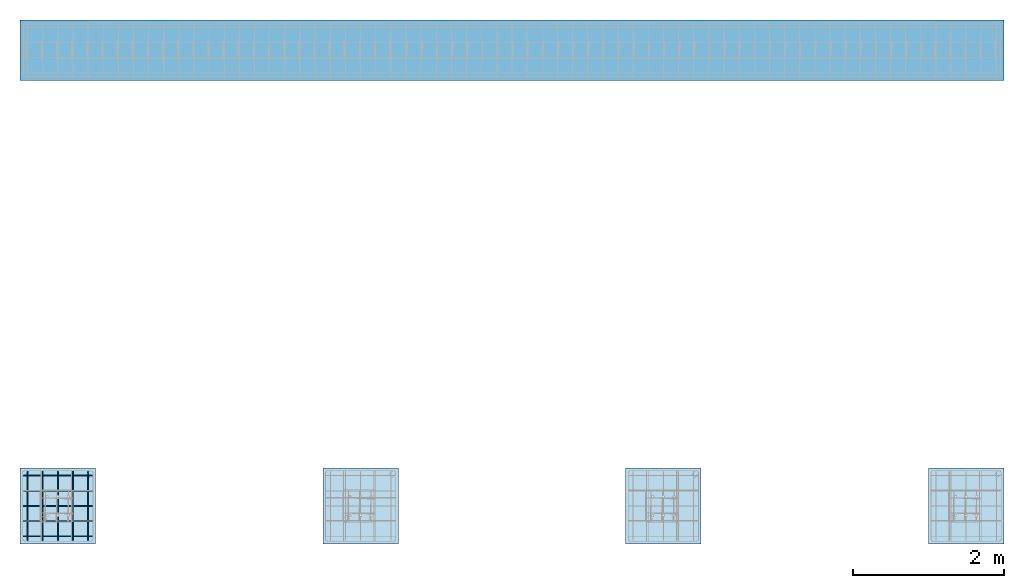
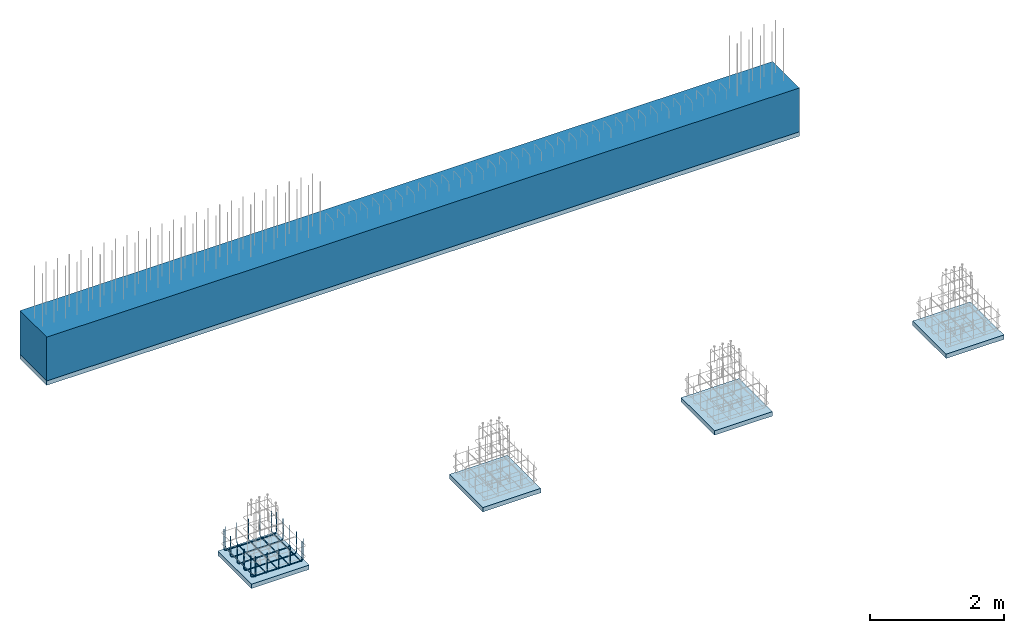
# One storey, part 1 of 12: 5 slabs, 2 reinforcing bars, 1 footing.
"""IFC4X3_ADD2 building model written with IfcOpenShell, lengths in millimetres."""

from ifc_helpers import new_model, entity, si_unit, converted_unit, derived_unit, direction, frame, frame_2d, origin, place, context, subcontext, project, spatial, rectangle, extrude, material, layer, layer_set, layer_usage, type_object, element, save


model = new_model("IFC4X3_ADD2")

# Units and contexts
model_context = context("Model", 3, precision=0.01, world=origin(), true_north=direction((6.123233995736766e-17, 1.0)))
plan_context = context("Plan", 3, precision=0.01, world=origin(), true_north=direction((6.123233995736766e-17, 1.0)))
body_context = subcontext(model_context, "Body", "Model", "MODEL_VIEW")
ifc_project = project(units=[si_unit("LENGTHUNIT", "METRE", prefix="MILLI"), converted_unit("PLANEANGLEUNIT", "DEGREE", entity("IfcPlaneAngleMeasure", 0.017453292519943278), si_unit("PLANEANGLEUNIT", "RADIAN"), dimensions=[0, 0, 0, 0, 0, 0, 0]), si_unit("AREAUNIT", "SQUARE_METRE"), si_unit("VOLUMEUNIT", "CUBIC_METRE"), derived_unit("THERMALTRANSMITTANCEUNIT", [(si_unit("MASSUNIT", "GRAM", prefix="KILO"), 1), (si_unit("THERMODYNAMICTEMPERATUREUNIT", "KELVIN"), -1), (si_unit("TIMEUNIT", "SECOND"), -3)]), derived_unit("USERDEFINED", [(si_unit("MASSUNIT", "GRAM", prefix="KILO"), 1), (si_unit("THERMODYNAMICTEMPERATUREUNIT", "KELVIN"), -1), (si_unit("TIMEUNIT", "SECOND"), -2)]), derived_unit("THERMALRESISTANCEUNIT", [(si_unit("MASSUNIT", "GRAM", prefix="KILO"), -1), (si_unit("TIMEUNIT", "SECOND"), 3), (si_unit("THERMODYNAMICTEMPERATUREUNIT", "KELVIN"), 1)]), si_unit("MASSUNIT", "GRAM", prefix="KILO"), derived_unit("MOMENTOFINERTIAUNIT", [(si_unit("LENGTHUNIT", "METRE"), 4)]), derived_unit("LINEARFORCEUNIT", [(si_unit("MASSUNIT", "GRAM", prefix="KILO"), 1), (si_unit("TIMEUNIT", "SECOND"), -2)]), derived_unit("WARPINGCONSTANTUNIT", [(si_unit("LENGTHUNIT", "METRE"), 6)]), si_unit("PRESSUREUNIT", "PASCAL"), derived_unit("MASSDENSITYUNIT", [(si_unit("MASSUNIT", "GRAM", prefix="KILO"), 1), (si_unit("LENGTHUNIT", "METRE"), -3)]), derived_unit("MODULUSOFELASTICITYUNIT", [(si_unit("MASSUNIT", "GRAM", prefix="KILO"), 1), (si_unit("TIMEUNIT", "SECOND"), -2), (si_unit("LENGTHUNIT", "METRE"), -1)]), derived_unit("THERMALEXPANSIONCOEFFICIENTUNIT", [(si_unit("THERMODYNAMICTEMPERATUREUNIT", "KELVIN"), -1)]), derived_unit("VAPORPERMEABILITYUNIT", [(si_unit("LENGTHUNIT", "METRE"), -1), (si_unit("TIMEUNIT", "SECOND"), 1)]), derived_unit("USERDEFINED", [(si_unit("MASSUNIT", "GRAM", prefix="KILO"), 1), (si_unit("TIMEUNIT", "SECOND"), -3), (si_unit("LENGTHUNIT", "METRE"), 3), (si_unit("ELECTRICCURRENTUNIT", "AMPERE"), -2)]), derived_unit("SPECIFICHEATCAPACITYUNIT", [(si_unit("THERMODYNAMICTEMPERATUREUNIT", "KELVIN"), -1), (si_unit("TIMEUNIT", "SECOND"), -2), (si_unit("LENGTHUNIT", "METRE"), 2)]), derived_unit("THERMALCONDUCTANCEUNIT", [(si_unit("MASSUNIT", "GRAM", prefix="KILO"), 1), (si_unit("THERMODYNAMICTEMPERATUREUNIT", "KELVIN"), -1), (si_unit("TIMEUNIT", "SECOND"), -3), (si_unit("LENGTHUNIT", "METRE"), 1)])], contexts=[model_context, plan_context])

# Site, building, storey
site_placement = place(None, origin())
site = spatial("IfcSite", under=ifc_project, at=site_placement, Name="Default", CompositionType="ELEMENT")
building_placement = place(site_placement, origin())
building = spatial("IfcBuilding", under=site, at=building_placement, Name="Complex structure", CompositionType="ELEMENT")
storey_placement = place(building_placement, frame((0.0, 0.0, -1200.0)))
storey = spatial("IfcBuildingStorey", under=building, at=storey_placement, Name="Level -03", CompositionType="ELEMENT", Elevation=-1200.0)

# Footing
ifc_material_1 = material(Name="Concrete, Cast In Situ", Category="Concrete")
footing_type = type_object("IfcFootingType", Name="Wall Foundation:Bearing Footing 800 x 800mm", PredefinedType="STRIP_FOOTING")
footing_placement = place(storey_placement, frame((-13645.22155030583, 4337.133296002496, 0.0)))
element("IfcFooting", 1, at=footing_placement, inside=storey, type_object=footing_type, material=ifc_material_1, Name="Wall Foundation:Bearing Footing 800 x 800mm", ObjectType="Wall Foundation:Bearing Footing 800 x 800mm", PredefinedType="STRIP_FOOTING", context=body_context, shape_type="SweptSolid", body=[
    extrude(rectangle(XDim=13000.0, YDim=799.9999999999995, at=frame_2d((9.094947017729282e-13, 2.5579538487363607e-13), x_axis=(1.0, 0.0))), frame((6500.0, 400.0, 0.0)), (0.0, 0.0, 1.0), 800.0),
])

# Slabs
ifc_material_2 = material(Name="Concrete - Cast-in-Place Concrete", Category="Concrete")
ifc_layer = layer(ifc_material_2, 80.0, Name="Concrete - Cast-in-Place Concrete", Category="Concrete")
ifc_layer_set = layer_set([ifc_layer], Name="Floor:Blinding Concrete 80mm")
ifc_layer_usage = layer_usage(ifc_layer_set, "AXIS3", "POSITIVE", 0.0)
slab_type = type_object("IfcSlabType", Name="Floor:Blinding Concrete 80mm", PredefinedType="FLOOR", material=ifc_layer_set)
slab_1_placement = place(storey_placement, frame((-13645.221550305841, -1782.8667039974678, -80.0)))
element("IfcSlab", 2, at=slab_1_placement, inside=storey, type_object=slab_type, material=ifc_layer_usage, Name="Floor:Blinding Concrete 80mm", ObjectType="Floor:Blinding Concrete 80mm", PredefinedType="FLOOR", context=body_context, shape_type="SweptSolid", body=[
    extrude(rectangle(XDim=800.0000000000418, YDim=13000.000000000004, at=frame_2d((0.0, 3060.0), x_axis=(0.0, -1.0))), frame((6500.0, 3460.0, 80.0), z_axis=(0.0, 0.0, -1.0), x_axis=(-1.0, 0.0, 0.0)), (0.0, 0.0, 1.0), 79.99999999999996),
])
slab_2_placement = place(storey_placement, frame((-13645.221550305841, -1782.8667039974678, -80.0)))
element("IfcSlab", 3, at=slab_2_placement, inside=storey, type_object=slab_type, material=ifc_layer_usage, Name="Floor:Blinding Concrete 80mm:2", ObjectType="Floor:Blinding Concrete 80mm", PredefinedType="FLOOR", context=body_context, shape_type="SweptSolid", body=[
    extrude(rectangle(XDim=1000.0, YDim=1000.0, at=frame_2d((-6000.0, -2960.0), x_axis=(0.0, -1.0))), frame((6500.0, 3460.0, 80.0), z_axis=(0.0, 0.0, -1.0), x_axis=(-1.0, 0.0, 0.0)), (0.0, 0.0, 1.0), 79.99999999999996),
])
slab_3_placement = place(storey_placement, frame((-13645.221550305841, -1782.8667039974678, -80.0)))
element("IfcSlab", 4, at=slab_3_placement, inside=storey, type_object=slab_type, material=ifc_layer_usage, Name="Floor:Blinding Concrete 80mm:3", ObjectType="Floor:Blinding Concrete 80mm", PredefinedType="FLOOR", context=body_context, shape_type="SweptSolid", body=[
    extrude(rectangle(XDim=1000.0, YDim=1000.0, at=frame_2d((-2000.0, -2960.0), x_axis=(0.0, -1.0))), frame((6500.0, 3460.0, 80.0), z_axis=(0.0, 0.0, -1.0), x_axis=(-1.0, 0.0, 0.0)), (0.0, 0.0, 1.0), 79.99999999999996),
])
slab_4_placement = place(storey_placement, frame((-13645.221550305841, -1782.8667039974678, -80.0)))
element("IfcSlab", 5, at=slab_4_placement, inside=storey, type_object=slab_type, material=ifc_layer_usage, Name="Floor:Blinding Concrete 80mm:4", ObjectType="Floor:Blinding Concrete 80mm", PredefinedType="FLOOR", context=body_context, shape_type="SweptSolid", body=[
    extrude(rectangle(XDim=1000.0, YDim=999.9999999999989, at=frame_2d((2000.0, -2960.0), x_axis=(0.0, -1.0))), frame((6500.0, 3460.0, 80.0), z_axis=(0.0, 0.0, -1.0), x_axis=(-1.0, 0.0, 0.0)), (0.0, 0.0, 1.0), 79.99999999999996),
])
slab_5_placement = place(storey_placement, frame((-13645.221550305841, -1782.8667039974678, -80.0)))
element("IfcSlab", 6, at=slab_5_placement, inside=storey, type_object=slab_type, material=ifc_layer_usage, Name="Floor:Blinding Concrete 80mm:5", ObjectType="Floor:Blinding Concrete 80mm", PredefinedType="FLOOR", context=body_context, shape_type="SweptSolid", body=[
    extrude(rectangle(XDim=1000.0, YDim=1000.0, at=frame_2d((6000.0, -2960.0), x_axis=(0.0, -1.0))), frame((6500.0, 3460.0, 80.0), z_axis=(0.0, 0.0, -1.0), x_axis=(-1.0, 0.0, 0.0)), (0.0, 0.0, 1.0), 79.99999999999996),
])

# Reinforcing bars
ifc_material_3 = material(Name="Steel Rebar - B500A, B or C", Category="Unassigned")
reinforcing_bar_type = type_object("IfcReinforcingBarType", Name="Rebar Bar:12mm", PredefinedType="NOTDEFINED")
reinforcing_bar_1_placement = place(storey_placement, origin())
ifc_direction_1 = entity("IfcDirection", [-1.0, 0.0, 0.0])
ifc_direction_2 = entity("IfcDirection", [-1.0, 0.0, 0.0])
ifc_direction_3 = entity("IfcDirection", [-1.0, 0.0, 0.0])
ifc_direction_4 = entity("IfcDirection", [-1.0, 0.0, 0.0])
ifc_direction_5 = entity("IfcDirection", [-1.0, 0.0, 0.0])
element("IfcReinforcingBar", 7, at=reinforcing_bar_1_placement, inside=storey, type_object=reinforcing_bar_type, material=ifc_material_3, Name="Rebar Bar:12mm : Shape 21", ObjectType="Rebar Bar:12mm", context=body_context, shape_type="AdvancedSweptSolid", body=[
    entity("IfcSweptDiskSolid", entity("IfcCompositeCurve", [entity("IfcCompositeCurveSegment", "CONTINUOUS", True, entity("IfcPolyline", [entity("IfcCartesianPoint", [-12745.221550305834, -828.8667039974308, 440.0]), entity("IfcCartesianPoint", [-12745.221550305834, -828.8667039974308, 104.0])])), entity("IfcCompositeCurveSegment", "CONTINUOUS", True, entity("IfcTrimmedCurve", entity("IfcCircle", entity("IfcAxis2Placement3D", entity("IfcCartesianPoint", [-12745.221550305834, -874.8667039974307, 104.0]), ifc_direction_1, entity("IfcDirection", [0.0, 0.0, -1.0])), 46.0), [entity("IfcParameterValue", 269.9999999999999)], [entity("IfcParameterValue", 360.00000000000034)], True, "PARAMETER")), entity("IfcCompositeCurveSegment", "CONTINUOUS", True, entity("IfcPolyline", [entity("IfcCartesianPoint", [-12745.221550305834, -874.8667039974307, 58.0]), entity("IfcCartesianPoint", [-12745.221550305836, -1690.86670399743, 58.0])])), entity("IfcCompositeCurveSegment", "CONTINUOUS", True, entity("IfcTrimmedCurve", entity("IfcCircle", entity("IfcAxis2Placement3D", entity("IfcCartesianPoint", [-12745.221550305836, -1690.86670399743, 104.0]), ifc_direction_1, entity("IfcDirection", [0.0, -1.0, 0.0])), 46.0), [entity("IfcParameterValue", 269.9999999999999)], [entity("IfcParameterValue", 360.00000000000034)], True, "PARAMETER")), entity("IfcCompositeCurveSegment", "CONTINUOUS", True, entity("IfcPolyline", [entity("IfcCartesianPoint", [-12745.221550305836, -1736.86670399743, 104.0]), entity("IfcCartesianPoint", [-12745.221550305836, -1736.86670399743, 440.0])]))], False), 6.0, None, 0.0, 183.00000000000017),
    entity("IfcSweptDiskSolid", entity("IfcCompositeCurve", [entity("IfcCompositeCurveSegment", "CONTINUOUS", True, entity("IfcPolyline", [entity("IfcCartesianPoint", [-12945.221550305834, -828.8667039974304, 440.0]), entity("IfcCartesianPoint", [-12945.221550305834, -828.8667039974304, 104.0])])), entity("IfcCompositeCurveSegment", "CONTINUOUS", True, entity("IfcTrimmedCurve", entity("IfcCircle", entity("IfcAxis2Placement3D", entity("IfcCartesianPoint", [-12945.221550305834, -874.8667039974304, 104.0]), ifc_direction_2, entity("IfcDirection", [0.0, 0.0, -1.0])), 46.0), [entity("IfcParameterValue", 269.9999999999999)], [entity("IfcParameterValue", 360.00000000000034)], True, "PARAMETER")), entity("IfcCompositeCurveSegment", "CONTINUOUS", True, entity("IfcPolyline", [entity("IfcCartesianPoint", [-12945.221550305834, -874.8667039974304, 58.0]), entity("IfcCartesianPoint", [-12945.221550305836, -1690.8667039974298, 58.0])])), entity("IfcCompositeCurveSegment", "CONTINUOUS", True, entity("IfcTrimmedCurve", entity("IfcCircle", entity("IfcAxis2Placement3D", entity("IfcCartesianPoint", [-12945.221550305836, -1690.8667039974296, 104.0]), ifc_direction_2, entity("IfcDirection", [0.0, -1.0, 0.0])), 46.0), [entity("IfcParameterValue", 269.9999999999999)], [entity("IfcParameterValue", 360.00000000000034)], True, "PARAMETER")), entity("IfcCompositeCurveSegment", "CONTINUOUS", True, entity("IfcPolyline", [entity("IfcCartesianPoint", [-12945.221550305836, -1736.8667039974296, 104.0]), entity("IfcCartesianPoint", [-12945.221550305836, -1736.8667039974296, 440.0])]))], False), 6.0, None, 0.0, 183.00000000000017),
    entity("IfcSweptDiskSolid", entity("IfcCompositeCurve", [entity("IfcCompositeCurveSegment", "CONTINUOUS", True, entity("IfcPolyline", [entity("IfcCartesianPoint", [-13145.221550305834, -828.8667039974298, 440.0]), entity("IfcCartesianPoint", [-13145.221550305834, -828.8667039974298, 104.0])])), entity("IfcCompositeCurveSegment", "CONTINUOUS", True, entity("IfcTrimmedCurve", entity("IfcCircle", entity("IfcAxis2Placement3D", entity("IfcCartesianPoint", [-13145.221550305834, -874.8667039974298, 104.0]), ifc_direction_3, entity("IfcDirection", [0.0, 0.0, -1.0])), 46.0), [entity("IfcParameterValue", 269.9999999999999)], [entity("IfcParameterValue", 360.00000000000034)], True, "PARAMETER")), entity("IfcCompositeCurveSegment", "CONTINUOUS", True, entity("IfcPolyline", [entity("IfcCartesianPoint", [-13145.221550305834, -874.8667039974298, 58.0]), entity("IfcCartesianPoint", [-13145.221550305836, -1690.866703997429, 58.0])])), entity("IfcCompositeCurveSegment", "CONTINUOUS", True, entity("IfcTrimmedCurve", entity("IfcCircle", entity("IfcAxis2Placement3D", entity("IfcCartesianPoint", [-13145.221550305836, -1690.866703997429, 104.0]), ifc_direction_3, entity("IfcDirection", [0.0, -1.0, 0.0])), 46.0), [entity("IfcParameterValue", 269.9999999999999)], [entity("IfcParameterValue", 360.00000000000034)], True, "PARAMETER")), entity("IfcCompositeCurveSegment", "CONTINUOUS", True, entity("IfcPolyline", [entity("IfcCartesianPoint", [-13145.221550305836, -1736.8667039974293, 104.0]), entity("IfcCartesianPoint", [-13145.221550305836, -1736.8667039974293, 440.0])]))], False), 6.0, None, 0.0, 183.00000000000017),
    entity("IfcSweptDiskSolid", entity("IfcCompositeCurve", [entity("IfcCompositeCurveSegment", "CONTINUOUS", True, entity("IfcPolyline", [entity("IfcCartesianPoint", [-13345.221550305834, -828.8667039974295, 440.0]), entity("IfcCartesianPoint", [-13345.221550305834, -828.8667039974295, 104.0])])), entity("IfcCompositeCurveSegment", "CONTINUOUS", True, entity("IfcTrimmedCurve", entity("IfcCircle", entity("IfcAxis2Placement3D", entity("IfcCartesianPoint", [-13345.221550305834, -874.8667039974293, 104.0]), ifc_direction_4, entity("IfcDirection", [0.0, 0.0, -1.0])), 46.0), [entity("IfcParameterValue", 269.9999999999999)], [entity("IfcParameterValue", 360.00000000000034)], True, "PARAMETER")), entity("IfcCompositeCurveSegment", "CONTINUOUS", True, entity("IfcPolyline", [entity("IfcCartesianPoint", [-13345.221550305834, -874.8667039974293, 58.0]), entity("IfcCartesianPoint", [-13345.221550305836, -1690.8667039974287, 58.0])])), entity("IfcCompositeCurveSegment", "CONTINUOUS", True, entity("IfcTrimmedCurve", entity("IfcCircle", entity("IfcAxis2Placement3D", entity("IfcCartesianPoint", [-13345.221550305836, -1690.8667039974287, 104.0]), ifc_direction_4, entity("IfcDirection", [0.0, -1.0, 0.0])), 46.0), [entity("IfcParameterValue", 269.9999999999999)], [entity("IfcParameterValue", 360.00000000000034)], True, "PARAMETER")), entity("IfcCompositeCurveSegment", "CONTINUOUS", True, entity("IfcPolyline", [entity("IfcCartesianPoint", [-13345.221550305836, -1736.8667039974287, 104.0]), entity("IfcCartesianPoint", [-13345.221550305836, -1736.8667039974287, 440.0])]))], False), 6.0, None, 0.0, 183.00000000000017),
    entity("IfcSweptDiskSolid", entity("IfcCompositeCurve", [entity("IfcCompositeCurveSegment", "CONTINUOUS", True, entity("IfcPolyline", [entity("IfcCartesianPoint", [-13545.221550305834, -828.8667039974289, 440.0]), entity("IfcCartesianPoint", [-13545.221550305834, -828.8667039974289, 104.0])])), entity("IfcCompositeCurveSegment", "CONTINUOUS", True, entity("IfcTrimmedCurve", entity("IfcCircle", entity("IfcAxis2Placement3D", entity("IfcCartesianPoint", [-13545.221550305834, -874.8667039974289, 104.0]), ifc_direction_5, entity("IfcDirection", [0.0, 0.0, -1.0])), 46.0), [entity("IfcParameterValue", 269.9999999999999)], [entity("IfcParameterValue", 360.00000000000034)], True, "PARAMETER")), entity("IfcCompositeCurveSegment", "CONTINUOUS", True, entity("IfcPolyline", [entity("IfcCartesianPoint", [-13545.221550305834, -874.8667039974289, 58.0]), entity("IfcCartesianPoint", [-13545.221550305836, -1690.8667039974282, 58.0])])), entity("IfcCompositeCurveSegment", "CONTINUOUS", True, entity("IfcTrimmedCurve", entity("IfcCircle", entity("IfcAxis2Placement3D", entity("IfcCartesianPoint", [-13545.221550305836, -1690.8667039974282, 104.0]), ifc_direction_5, entity("IfcDirection", [0.0, -1.0, 0.0])), 46.0), [entity("IfcParameterValue", 269.9999999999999)], [entity("IfcParameterValue", 360.00000000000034)], True, "PARAMETER")), entity("IfcCompositeCurveSegment", "CONTINUOUS", True, entity("IfcPolyline", [entity("IfcCartesianPoint", [-13545.221550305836, -1736.8667039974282, 104.0]), entity("IfcCartesianPoint", [-13545.221550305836, -1736.8667039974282, 440.0])]))], False), 6.0, None, 0.0, 183.00000000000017),
])
reinforcing_bar_2_placement = place(storey_placement, origin())
ifc_direction_6 = entity("IfcDirection", [0.0, -1.0, 0.0])
ifc_direction_7 = entity("IfcDirection", [0.0, -1.0, 0.0])
ifc_direction_8 = entity("IfcDirection", [0.0, -1.0, 0.0])
ifc_direction_9 = entity("IfcDirection", [0.0, -1.0, 0.0])
ifc_direction_10 = entity("IfcDirection", [0.0, -1.0, 0.0])
element("IfcReinforcingBar", 8, at=reinforcing_bar_2_placement, inside=storey, type_object=reinforcing_bar_type, material=ifc_material_3, Name="Rebar Bar:12mm : Shape 21", ObjectType="Rebar Bar:12mm", context=body_context, shape_type="AdvancedSweptSolid", body=[
    entity("IfcSweptDiskSolid", entity("IfcCompositeCurve", [entity("IfcCompositeCurveSegment", "CONTINUOUS", True, entity("IfcPolyline", [entity("IfcCartesianPoint", [-13598.871550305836, -882.8667039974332, 440.0]), entity("IfcCartesianPoint", [-13598.871550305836, -882.8667039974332, 92.34999999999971])])), entity("IfcCompositeCurveSegment", "CONTINUOUS", True, entity("IfcTrimmedCurve", entity("IfcCircle", entity("IfcAxis2Placement3D", entity("IfcCartesianPoint", [-13552.871550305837, -882.8667039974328, 92.34999999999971]), ifc_direction_6, entity("IfcDirection", [0.0, 0.0, -1.0])), 46.0), [entity("IfcParameterValue", 269.9999999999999)], [entity("IfcParameterValue", 360.00000000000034)], True, "PARAMETER")), entity("IfcCompositeCurveSegment", "CONTINUOUS", True, entity("IfcPolyline", [entity("IfcCartesianPoint", [-13552.871550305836, -882.8667039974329, 46.34999999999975]), entity("IfcCartesianPoint", [-12737.571550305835, -882.8667039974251, 46.34999999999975])])), entity("IfcCompositeCurveSegment", "CONTINUOUS", True, entity("IfcTrimmedCurve", entity("IfcCircle", entity("IfcAxis2Placement3D", entity("IfcCartesianPoint", [-12737.571550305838, -882.8667039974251, 92.34999999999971]), ifc_direction_6, entity("IfcDirection", [1.0, 0.0, 0.0])), 46.0), [entity("IfcParameterValue", 269.9999999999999)], [entity("IfcParameterValue", 360.00000000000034)], True, "PARAMETER")), entity("IfcCompositeCurveSegment", "CONTINUOUS", True, entity("IfcPolyline", [entity("IfcCartesianPoint", [-12691.571550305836, -882.8667039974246, 92.34999999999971]), entity("IfcCartesianPoint", [-12691.571550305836, -882.8667039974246, 440.0])]))], False), 6.0, None, 0.0, 183.00000000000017),
    entity("IfcSweptDiskSolid", entity("IfcCompositeCurve", [entity("IfcCompositeCurveSegment", "CONTINUOUS", True, entity("IfcPolyline", [entity("IfcCartesianPoint", [-13598.871550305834, -1082.8667039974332, 440.0]), entity("IfcCartesianPoint", [-13598.871550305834, -1082.8667039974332, 92.34999999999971])])), entity("IfcCompositeCurveSegment", "CONTINUOUS", True, entity("IfcTrimmedCurve", entity("IfcCircle", entity("IfcAxis2Placement3D", entity("IfcCartesianPoint", [-13552.871550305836, -1082.8667039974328, 92.34999999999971]), ifc_direction_7, entity("IfcDirection", [0.0, 0.0, -1.0])), 46.0), [entity("IfcParameterValue", 269.9999999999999)], [entity("IfcParameterValue", 360.00000000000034)], True, "PARAMETER")), entity("IfcCompositeCurveSegment", "CONTINUOUS", True, entity("IfcPolyline", [entity("IfcCartesianPoint", [-13552.871550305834, -1082.8667039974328, 46.34999999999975]), entity("IfcCartesianPoint", [-12737.571550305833, -1082.8667039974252, 46.34999999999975])])), entity("IfcCompositeCurveSegment", "CONTINUOUS", True, entity("IfcTrimmedCurve", entity("IfcCircle", entity("IfcAxis2Placement3D", entity("IfcCartesianPoint", [-12737.571550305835, -1082.8667039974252, 92.34999999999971]), ifc_direction_7, entity("IfcDirection", [1.0, 0.0, 0.0])), 46.0), [entity("IfcParameterValue", 269.9999999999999)], [entity("IfcParameterValue", 360.00000000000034)], True, "PARAMETER")), entity("IfcCompositeCurveSegment", "CONTINUOUS", True, entity("IfcPolyline", [entity("IfcCartesianPoint", [-12691.571550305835, -1082.8667039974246, 92.34999999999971]), entity("IfcCartesianPoint", [-12691.571550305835, -1082.8667039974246, 440.0])]))], False), 6.0, None, 0.0, 183.00000000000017),
    entity("IfcSweptDiskSolid", entity("IfcCompositeCurve", [entity("IfcCompositeCurveSegment", "CONTINUOUS", True, entity("IfcPolyline", [entity("IfcCartesianPoint", [-13598.871550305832, -1282.8667039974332, 440.0]), entity("IfcCartesianPoint", [-13598.871550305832, -1282.8667039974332, 92.34999999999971])])), entity("IfcCompositeCurveSegment", "CONTINUOUS", True, entity("IfcTrimmedCurve", entity("IfcCircle", entity("IfcAxis2Placement3D", entity("IfcCartesianPoint", [-13552.871550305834, -1282.8667039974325, 92.34999999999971]), ifc_direction_8, entity("IfcDirection", [0.0, 0.0, -1.0])), 46.0), [entity("IfcParameterValue", 269.9999999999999)], [entity("IfcParameterValue", 360.00000000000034)], True, "PARAMETER")), entity("IfcCompositeCurveSegment", "CONTINUOUS", True, entity("IfcPolyline", [entity("IfcCartesianPoint", [-13552.871550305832, -1282.8667039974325, 46.34999999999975]), entity("IfcCartesianPoint", [-12737.57155030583, -1282.866703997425, 46.34999999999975])])), entity("IfcCompositeCurveSegment", "CONTINUOUS", True, entity("IfcTrimmedCurve", entity("IfcCircle", entity("IfcAxis2Placement3D", entity("IfcCartesianPoint", [-12737.571550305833, -1282.866703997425, 92.34999999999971]), ifc_direction_8, entity("IfcDirection", [1.0, 0.0, 0.0])), 46.0), [entity("IfcParameterValue", 269.9999999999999)], [entity("IfcParameterValue", 360.00000000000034)], True, "PARAMETER")), entity("IfcCompositeCurveSegment", "CONTINUOUS", True, entity("IfcPolyline", [entity("IfcCartesianPoint", [-12691.571550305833, -1282.8667039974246, 92.34999999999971]), entity("IfcCartesianPoint", [-12691.571550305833, -1282.8667039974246, 440.0])]))], False), 6.0, None, 0.0, 183.00000000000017),
    entity("IfcSweptDiskSolid", entity("IfcCompositeCurve", [entity("IfcCompositeCurveSegment", "CONTINUOUS", True, entity("IfcPolyline", [entity("IfcCartesianPoint", [-13598.87155030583, -1482.8667039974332, 440.0]), entity("IfcCartesianPoint", [-13598.87155030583, -1482.8667039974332, 92.34999999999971])])), entity("IfcCompositeCurveSegment", "CONTINUOUS", True, entity("IfcTrimmedCurve", entity("IfcCircle", entity("IfcAxis2Placement3D", entity("IfcCartesianPoint", [-13552.871550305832, -1482.8667039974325, 92.34999999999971]), ifc_direction_9, entity("IfcDirection", [0.0, 0.0, -1.0])), 46.0), [entity("IfcParameterValue", 269.9999999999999)], [entity("IfcParameterValue", 360.00000000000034)], True, "PARAMETER")), entity("IfcCompositeCurveSegment", "CONTINUOUS", True, entity("IfcPolyline", [entity("IfcCartesianPoint", [-13552.87155030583, -1482.8667039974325, 46.34999999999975]), entity("IfcCartesianPoint", [-12737.571550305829, -1482.866703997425, 46.34999999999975])])), entity("IfcCompositeCurveSegment", "CONTINUOUS", True, entity("IfcTrimmedCurve", entity("IfcCircle", entity("IfcAxis2Placement3D", entity("IfcCartesianPoint", [-12737.57155030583, -1482.866703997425, 92.34999999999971]), ifc_direction_9, entity("IfcDirection", [1.0, 0.0, 0.0])), 46.0), [entity("IfcParameterValue", 269.9999999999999)], [entity("IfcParameterValue", 360.00000000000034)], True, "PARAMETER")), entity("IfcCompositeCurveSegment", "CONTINUOUS", True, entity("IfcPolyline", [entity("IfcCartesianPoint", [-12691.57155030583, -1482.8667039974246, 92.34999999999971]), entity("IfcCartesianPoint", [-12691.57155030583, -1482.8667039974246, 440.0])]))], False), 6.0, None, 0.0, 183.00000000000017),
    entity("IfcSweptDiskSolid", entity("IfcCompositeCurve", [entity("IfcCompositeCurveSegment", "CONTINUOUS", True, entity("IfcPolyline", [entity("IfcCartesianPoint", [-13598.87155030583, -1682.8667039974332, 440.0]), entity("IfcCartesianPoint", [-13598.87155030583, -1682.8667039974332, 92.34999999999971])])), entity("IfcCompositeCurveSegment", "CONTINUOUS", True, entity("IfcTrimmedCurve", entity("IfcCircle", entity("IfcAxis2Placement3D", entity("IfcCartesianPoint", [-13552.871550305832, -1682.8667039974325, 92.34999999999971]), ifc_direction_10, entity("IfcDirection", [0.0, 0.0, -1.0])), 46.0), [entity("IfcParameterValue", 269.9999999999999)], [entity("IfcParameterValue", 360.00000000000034)], True, "PARAMETER")), entity("IfcCompositeCurveSegment", "CONTINUOUS", True, entity("IfcPolyline", [entity("IfcCartesianPoint", [-13552.87155030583, -1682.8667039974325, 46.34999999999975]), entity("IfcCartesianPoint", [-12737.571550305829, -1682.866703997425, 46.34999999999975])])), entity("IfcCompositeCurveSegment", "CONTINUOUS", True, entity("IfcTrimmedCurve", entity("IfcCircle", entity("IfcAxis2Placement3D", entity("IfcCartesianPoint", [-12737.57155030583, -1682.866703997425, 92.34999999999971]), ifc_direction_10, entity("IfcDirection", [1.0, 0.0, 0.0])), 46.0), [entity("IfcParameterValue", 269.9999999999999)], [entity("IfcParameterValue", 360.00000000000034)], True, "PARAMETER")), entity("IfcCompositeCurveSegment", "CONTINUOUS", True, entity("IfcPolyline", [entity("IfcCartesianPoint", [-12691.57155030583, -1682.8667039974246, 92.34999999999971]), entity("IfcCartesianPoint", [-12691.57155030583, -1682.8667039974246, 440.0])]))], False), 6.0, None, 0.0, 183.00000000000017),
])

save(model, "model.ifc")
